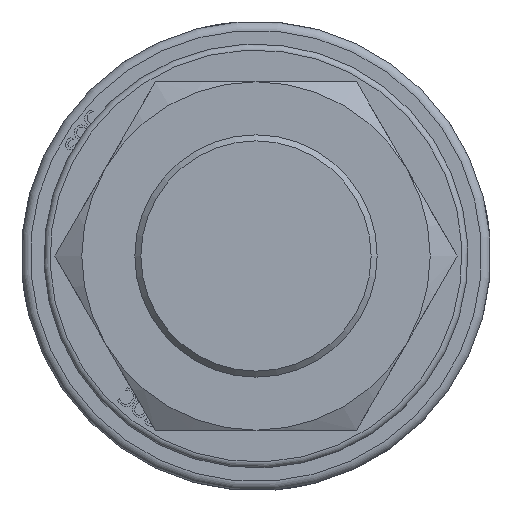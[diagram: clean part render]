
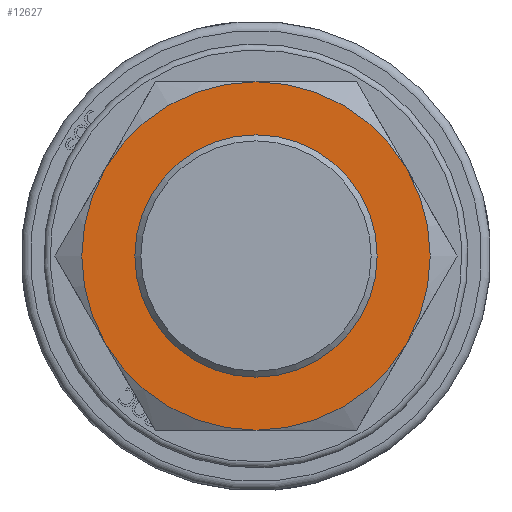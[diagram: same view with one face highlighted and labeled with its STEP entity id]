
A CAD part, front view. The second image highlights one B-rep face of the part: STEP entity #12627.
In plain terms, the highlighted planar face has unit normal (0, -1, 0) as drawn and (-1, 0, 0) by its records, which use the part's own axes.
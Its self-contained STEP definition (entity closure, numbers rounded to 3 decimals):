
#112=CIRCLE('',#13279,38.918);
#114=CIRCLE('',#13283,57.5);
#115=CIRCLE('',#13284,57.5);
#116=CIRCLE('',#13285,57.5);
#117=CIRCLE('',#13286,57.5);
#118=CIRCLE('',#13287,57.5);
#119=CIRCLE('',#13288,57.5);
#178=FACE_BOUND('',#2448,.T.);
#1696=FACE_OUTER_BOUND('',#2447,.T.);
#2447=EDGE_LOOP('',(#9994,#9995,#9996,#9997,#9998,#9999));
#2448=EDGE_LOOP('',(#10000));
#5628=VERTEX_POINT('',#19374);
#5630=VERTEX_POINT('',#19380);
#5631=VERTEX_POINT('',#19381);
#5632=VERTEX_POINT('',#19383);
#5633=VERTEX_POINT('',#19385);
#5634=VERTEX_POINT('',#19387);
#5635=VERTEX_POINT('',#19389);
#7197=EDGE_CURVE('',#5628,#5628,#112,.T.);
#7199=EDGE_CURVE('',#5630,#5631,#114,.T.);
#7200=EDGE_CURVE('',#5631,#5632,#115,.T.);
#7201=EDGE_CURVE('',#5632,#5633,#116,.T.);
#7202=EDGE_CURVE('',#5633,#5634,#117,.T.);
#7203=EDGE_CURVE('',#5634,#5635,#118,.T.);
#7204=EDGE_CURVE('',#5635,#5630,#119,.T.);
#9994=ORIENTED_EDGE('',*,*,#7199,.T.);
#9995=ORIENTED_EDGE('',*,*,#7200,.T.);
#9996=ORIENTED_EDGE('',*,*,#7201,.T.);
#9997=ORIENTED_EDGE('',*,*,#7202,.T.);
#9998=ORIENTED_EDGE('',*,*,#7203,.T.);
#9999=ORIENTED_EDGE('',*,*,#7204,.T.);
#10000=ORIENTED_EDGE('',*,*,#7197,.F.);
#12150=PLANE('',#13282);
#12627=ADVANCED_FACE('',(#1696,#178),#12150,.F.);
#13279=AXIS2_PLACEMENT_3D('',#19375,#14400,#14401);
#13282=AXIS2_PLACEMENT_3D('',#19379,#14406,#14407);
#13283=AXIS2_PLACEMENT_3D('',#19382,#14408,#14409);
#13284=AXIS2_PLACEMENT_3D('',#19384,#14410,#14411);
#13285=AXIS2_PLACEMENT_3D('',#19386,#14412,#14413);
#13286=AXIS2_PLACEMENT_3D('',#19388,#14414,#14415);
#13287=AXIS2_PLACEMENT_3D('',#19390,#14416,#14417);
#13288=AXIS2_PLACEMENT_3D('',#19391,#14418,#14419);
#14400=DIRECTION('center_axis',(-1.,0.,0.));
#14401=DIRECTION('ref_axis',(0.,0.,-1.));
#14406=DIRECTION('center_axis',(1.,0.,0.));
#14407=DIRECTION('ref_axis',(0.,0.,-1.));
#14408=DIRECTION('center_axis',(-1.,0.,0.));
#14409=DIRECTION('ref_axis',(0.,1.,0.));
#14410=DIRECTION('center_axis',(-1.,0.,0.));
#14411=DIRECTION('ref_axis',(0.,1.,0.));
#14412=DIRECTION('center_axis',(-1.,0.,0.));
#14413=DIRECTION('ref_axis',(0.,1.,0.));
#14414=DIRECTION('center_axis',(-1.,0.,0.));
#14415=DIRECTION('ref_axis',(0.,1.,0.));
#14416=DIRECTION('center_axis',(-1.,0.,0.));
#14417=DIRECTION('ref_axis',(0.,1.,0.));
#14418=DIRECTION('center_axis',(-1.,0.,0.));
#14419=DIRECTION('ref_axis',(0.,1.,0.));
#19374=CARTESIAN_POINT('',(0.,0.,38.918));
#19375=CARTESIAN_POINT('Origin',(0.,0.,0.));
#19379=CARTESIAN_POINT('Origin',(0.,0.,0.));
#19380=CARTESIAN_POINT('',(0.,-49.796,-28.75));
#19381=CARTESIAN_POINT('',(0.,-49.796,28.75));
#19382=CARTESIAN_POINT('Origin',(0.,0.,0.));
#19383=CARTESIAN_POINT('',(0.,0.,57.5));
#19384=CARTESIAN_POINT('Origin',(0.,0.,0.));
#19385=CARTESIAN_POINT('',(0.,49.796,28.75));
#19386=CARTESIAN_POINT('Origin',(0.,0.,0.));
#19387=CARTESIAN_POINT('',(0.,49.796,-28.75));
#19388=CARTESIAN_POINT('Origin',(0.,0.,0.));
#19389=CARTESIAN_POINT('',(0.,0.,-57.5));
#19390=CARTESIAN_POINT('Origin',(0.,0.,0.));
#19391=CARTESIAN_POINT('Origin',(0.,0.,0.));
